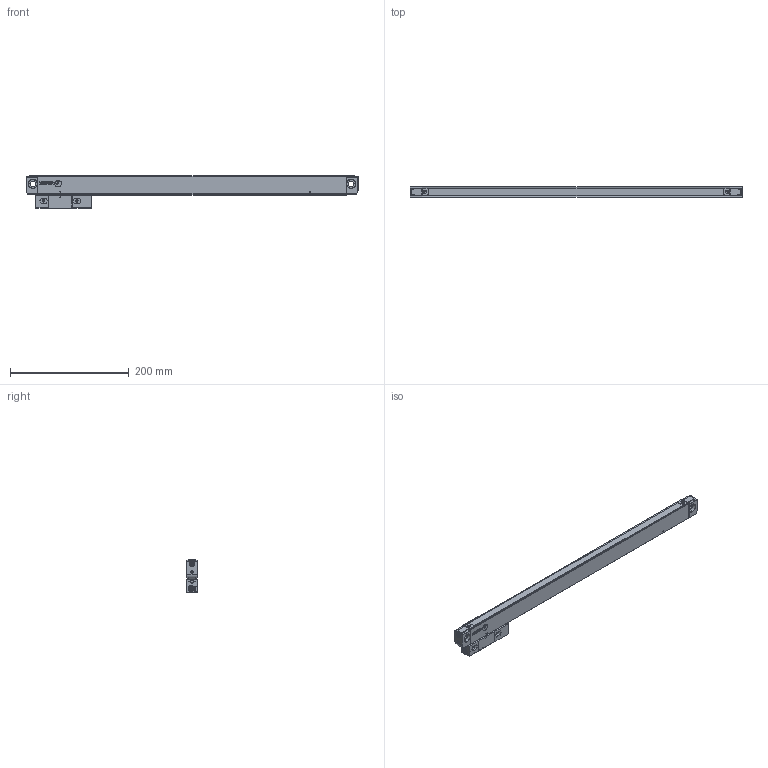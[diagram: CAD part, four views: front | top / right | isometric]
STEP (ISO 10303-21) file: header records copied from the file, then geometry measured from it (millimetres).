
FILE_DESCRIPTION(('Creo Elements/Direct Modeling STEP Export'),'2;1');
FILE_NAME('REGLA_S2-420-T.stp','2018-11-05T 9:38:06',(''),(''),'Creo Elements/Direct Modeling STEP processor for AP214 (Solid Model)','Creo Elements/Direct Modeling 19.0G 27-Nov-2017 (C) Parametric Technology GmbH','');
FILE_SCHEMA(('AUTOMOTIVE_DESIGN { 1 0 10303 214 1 1 1 1 }'));
Length unit declared in the file: millimetre
Products named in the file (3): CABEZA_ROSCADA_REGLA_S; REGLA_S-420-T; REGLA_S2-420-T
Assembly tree (2 placements, depth 2):
  REGLA_S2-420-T
    REGLA_S-420-T
    CABEZA_ROSCADA_REGLA_S
Bounding box: 558 x 18.3 x 54.3 mm (x, y, z)
Volume: 318931.3 mm3; surface area: 87329.8 mm2
Topology: 2 solids, 22 shells, 880 faces, 2250 edges, 1448 vertices
Faces by surface type: plane 354, cylinder 301, cone 174, bspline 38, torus 6, sphere 4, extrusion 3
Entity records: 30904 total; most frequent: CARTESIAN_POINT 7358, ORIENTED_EDGE 4472, DIRECTION 3788, EDGE_CURVE 2236, VERTEX_POINT 1448, AXIS2_PLACEMENT_3D 1296, VECTOR 1196, LINE 1193
